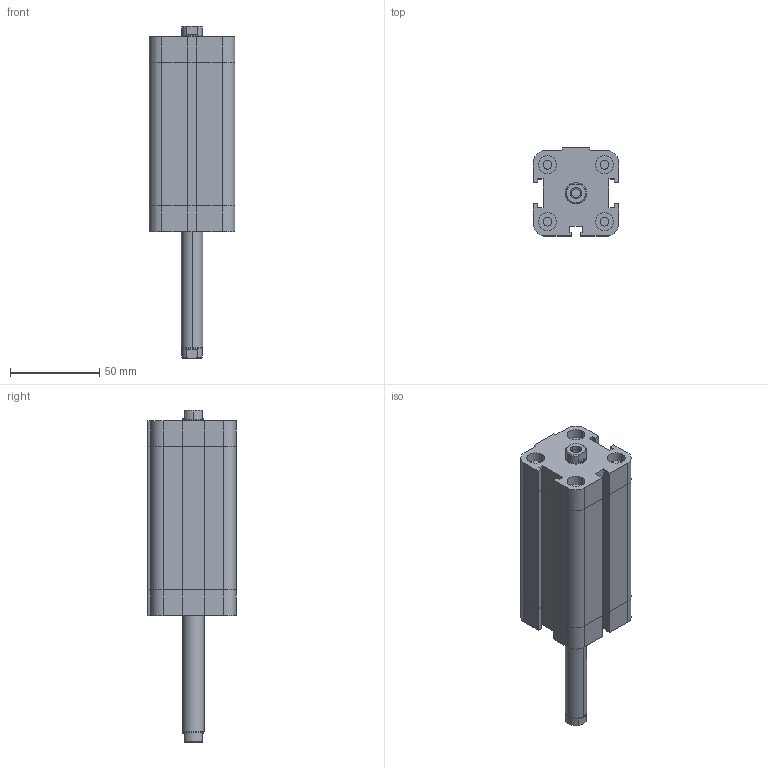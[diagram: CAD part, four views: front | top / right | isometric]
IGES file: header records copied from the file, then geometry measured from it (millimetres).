
Global section: file name: No Iges File Name specified; native system: Autodesk Inventor 2009; preprocessor: AutoDesk Inventor Iges Exporter R2009; author: maffial1; date: 20090420.200532; units: millimetre
Bounding box: 48 x 49.5 x 186.5 mm (x, y, z)
Volume: 231173.4 mm3; surface area: 44751.6 mm2
Topology: 2 solids, 2 shells, 202 faces, 450 edges, 274 vertices
Faces by surface type: plane 114, bspline 42, revolution 20, cylinder 18, cone 8
